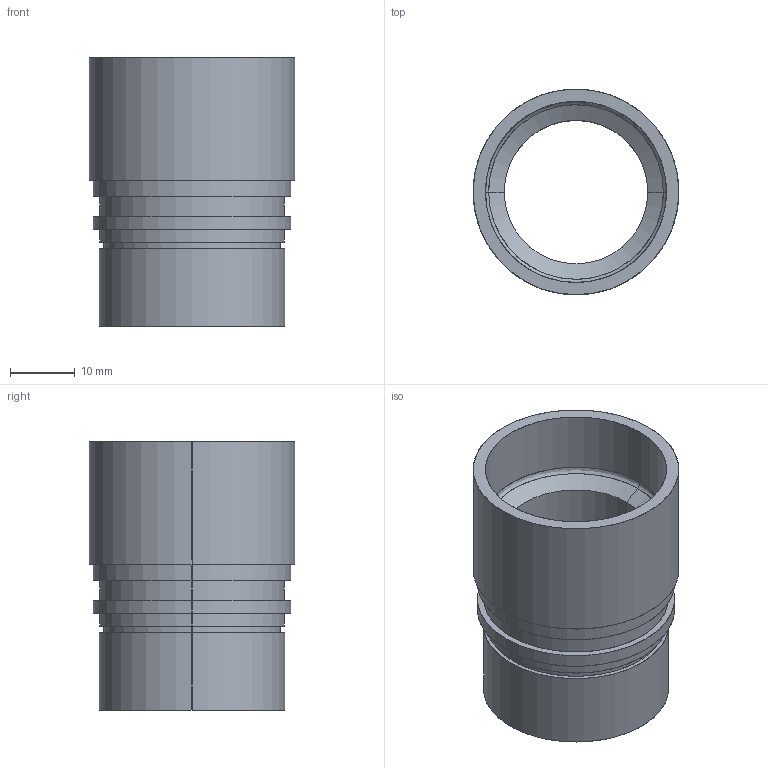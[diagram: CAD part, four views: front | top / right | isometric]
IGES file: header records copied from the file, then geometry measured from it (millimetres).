
Start section: SolidWorks IGES file using analytic representation for surfaces
Global section: file name: 25.4^70-仩R31.8-PH.IGS,; native system: SolidWorks 2012; preprocessor: SolidWorks 2012; author: harada; date: 130902.110353; units: millimetre
Bounding box: 31.8 x 31.8 x 41.5 mm (x, y, z)
Surface area: 8114.3 mm2 (no closed solid volume)
Topology: 0 solids, 0 shells, 33 faces, 1088 edges, 1088 vertices
Faces by surface type: revolution 22, bspline 11
